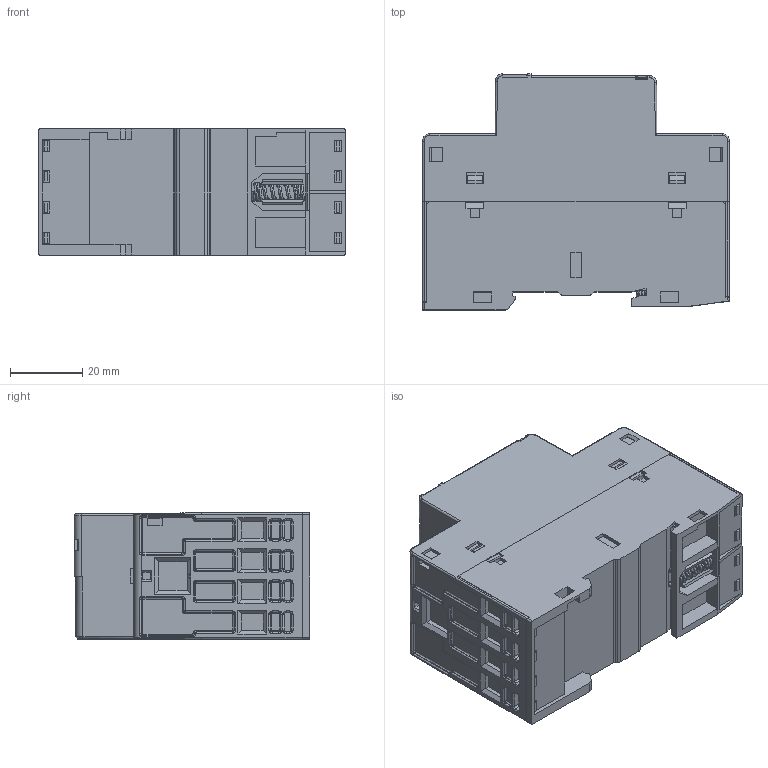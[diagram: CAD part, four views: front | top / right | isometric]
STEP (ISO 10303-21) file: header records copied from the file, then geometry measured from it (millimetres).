
FILE_DESCRIPTION (( 'STEP AP214' ), '1' );
FILE_NAME ('RIC25.STEP', '2019-11-21T08:44:06', ( '' ), ( '' ), 'SwSTEP 2.0', 'SolidWorks 2016', '' );
FILE_SCHEMA (( 'AUTOMOTIVE_DESIGN' ));
Length unit declared in the file: millimetre
Products named in the file (1): RIC25
Bounding box: 85 x 65.4 x 35 mm (x, y, z)
Volume: 154845.9 mm3; surface area: 30923.1 mm2
Topology: 3 solids, 7 shells, 1442 faces, 3766 edges, 2323 vertices
Faces by surface type: plane 820, cylinder 366, bspline 256
Entity records: 72396 total; most frequent: CARTESIAN_POINT 23735, ORIENTED_EDGE 7494, DIRECTION 6312, EDGE_CURVE 3747, LINE 2570, VECTOR 2570, VERTEX_POINT 2323, AXIS2_PLACEMENT_3D 1871
